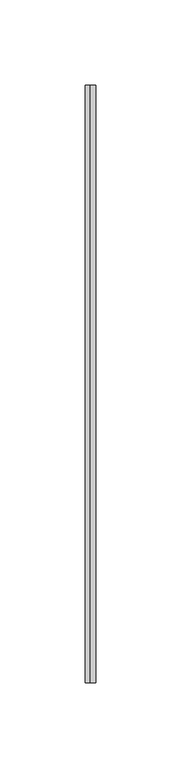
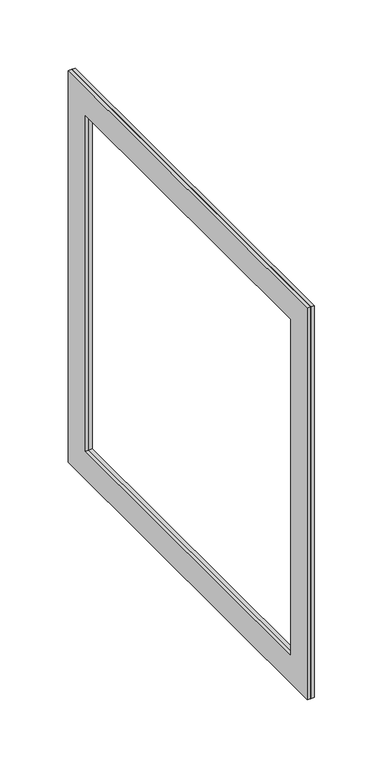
"""IFC4 building model written with IfcOpenShell, lengths in millimetres: duct fitting geometry, BL_ФланецВоздуховдов-Двойной_Прямоугольный : BL_ФланецВоздуховдов-Двойной_Прямоугольный."""

import ifcopenshell
import ifcopenshell.guid

model = None  # the IFC model being written
_history = None  # IfcOwnerHistory: only IFC2X3 demands one
_inside = {}  # id of a spatial element -> (the spatial element, [elements in it])
_under = {}  # id of a project, library or spatial element -> (it, [spatial elements below it])
_declared = {}  # id of a project -> (the project, [libraries it declares])
_typed = {}  # id of a type object -> (the type object, [elements of that type])
_made_of = {}  # id of a material, layer set ... -> (it, [elements and type objects made of it])


def new_model(schema):
    """Start an empty IFC model of exactly this schema.

    Asked for "IFC4X3", IfcOpenShell would pick the latest addendum, in which some entities
    have other attributes; the version numbers below select the first issue.
    IFC2X3 requires an IfcOwnerHistory on every rooted entity: one is made here for all.
    """
    global model, _history
    if schema == "IFC4X3":
        model = ifcopenshell.file(schema_version=(4, 3, 0, 0))
    else:
        model = ifcopenshell.file(schema=schema)
    _inside.clear()
    _under.clear()
    _declared.clear()
    _typed.clear()
    _made_of.clear()
    _history = None
    if model.schema == "IFC2X3":
        org = make("IfcOrganization", Name="unknown")
        user = make(
            "IfcPersonAndOrganization",
            ThePerson=make("IfcPerson", FamilyName="unknown"),
            TheOrganization=org,
        )
        app = make(
            "IfcApplication",
            ApplicationDeveloper=org,
            Version="unknown",
            ApplicationFullName="unknown",
            ApplicationIdentifier="unknown",
        )
        _history = make(
            "IfcOwnerHistory",
            OwningUser=user,
            OwningApplication=app,
            ChangeAction="ADDED",
            CreationDate=0,
        )
    return model


def make(cls, **values):
    """One entity of the class cls with the attributes given. An attribute that is None is left unset."""
    return model.create_entity(
        cls, **{name: value for name, value in values.items() if value is not None}
    )


def rooted(cls, **values):
    """An entity with a GlobalId (a new one), such as an element, a storey or a relation."""
    return make(cls, GlobalId=ifcopenshell.guid.new(), OwnerHistory=_history, **values)


def si_unit(unit_type, name, prefix=None):
    """IfcSIUnit, for example si_unit("LENGTHUNIT", "METRE", prefix="MILLI")."""
    return make("IfcSIUnit", UnitType=unit_type, Prefix=prefix, Name=name)


def assignment(units):
    """IfcUnitAssignment: the units of a project."""
    return None if units is None else make("IfcUnitAssignment", Units=units)


def point(xyz):
    """IfcCartesianPoint."""
    return None if xyz is None else make("IfcCartesianPoint", Coordinates=xyz)


def direction(xyz):
    """IfcDirection."""
    return None if xyz is None else make("IfcDirection", DirectionRatios=xyz)


def frame(location, z_axis=None, x_axis=None):
    """IfcAxis2Placement3D, a coordinate frame: its origin and axes. An axis left out is left unset."""
    return make(
        "IfcAxis2Placement3D",
        Location=point(location),
        Axis=direction(z_axis),
        RefDirection=direction(x_axis),
    )


def origin():
    """The frame at (0, 0, 0) with its axes left unset."""
    return frame((0.0, 0.0, 0.0))


def place(relative_to, where):
    """IfcLocalPlacement: puts the frame where relative to a parent placement (None: the world)."""
    return make(
        "IfcLocalPlacement", PlacementRelTo=relative_to, RelativePlacement=where
    )


def context(
    kind, dimensions, precision=None, world=None, true_north=None, identifier=None
):
    """IfcGeometricRepresentationContext, for example the 3D "Model" context."""
    return make(
        "IfcGeometricRepresentationContext",
        ContextIdentifier=identifier,
        ContextType=kind,
        CoordinateSpaceDimension=dimensions,
        Precision=precision,
        WorldCoordinateSystem=world,
        TrueNorth=true_north,
    )


def project(units=None, contexts=None):
    """IfcProject with its units and contexts."""
    return rooted(
        "IfcProject",
        Name="project",
        RepresentationContexts=contexts,
        UnitsInContext=assignment(units),
    )


def spatial(cls, under=None, at=None, **own):
    """A site, building, storey or space (cls), placed at a placement, below another one or the project."""
    s = rooted(cls, ObjectPlacement=at, **own)
    if under is not None:
        _under.setdefault(under.id(), (under, []))[1].append(s)
    return s


def polyline(points):
    """IfcPolyline through the points."""
    return make("IfcPolyline", Points=[point(p) for p in points])


def outline(outer, holes=None, kind="AREA"):
    """IfcArbitraryClosedProfileDef: a profile drawn as a closed curve; with holes, ...WithVoids."""
    if holes is None:
        return make("IfcArbitraryClosedProfileDef", ProfileType=kind, OuterCurve=outer)
    return make(
        "IfcArbitraryProfileDefWithVoids",
        ProfileType=kind,
        OuterCurve=outer,
        InnerCurves=holes,
    )


def extrude(swept, where, along, depth):
    """IfcExtrudedAreaSolid: the profile swept, set in the frame where, extruded along a direction by depth."""
    return make(
        "IfcExtrudedAreaSolid",
        SweptArea=swept,
        Position=where,
        ExtrudedDirection=direction(along),
        Depth=depth,
    )


def shape(context_of_items, identifier, shape_type, items):
    """IfcShapeRepresentation: the items that make up one representation, for example the "Body"."""
    return make(
        "IfcShapeRepresentation",
        ContextOfItems=context_of_items,
        RepresentationIdentifier=identifier,
        RepresentationType=shape_type,
        Items=items,
    )


def source(mapping_origin, context_of_items, identifier, shape_type, items):
    """IfcRepresentationMap: a shape defined once, which mapped items show again and again."""
    return make(
        "IfcRepresentationMap",
        MappingOrigin=mapping_origin,
        MappedRepresentation=shape(context_of_items, identifier, shape_type, items),
    )


def transform(
    local_origin,
    x_axis=None,
    y_axis=None,
    z_axis=None,
    scale=None,
    scale2=None,
    scale3=None,
    uniform=True,
):
    """IfcCartesianTransformationOperator3D, or its non-uniform kind. x_axis, y_axis, z_axis: its Axis1, 2, 3."""
    if uniform:
        return make(
            "IfcCartesianTransformationOperator3D",
            Axis1=direction(x_axis),
            Axis2=direction(y_axis),
            LocalOrigin=point(local_origin),
            Scale=scale,
            Axis3=direction(z_axis),
        )
    return make(
        "IfcCartesianTransformationOperator3DnonUniform",
        Axis1=direction(x_axis),
        Axis2=direction(y_axis),
        LocalOrigin=point(local_origin),
        Scale=scale,
        Axis3=direction(z_axis),
        Scale2=scale2,
        Scale3=scale3,
    )


def mapped(mapping_source, mapping_target):
    """IfcMappedItem: shows the shape of a source again, moved by a transform."""
    return make(
        "IfcMappedItem", MappingSource=mapping_source, MappingTarget=mapping_target
    )


def made_of(thing, what):
    """Note that an element or type object is made of a material, layer set ...; save() writes the relation."""
    if what is not None:
        _made_of.setdefault(what.id(), (what, []))[1].append(thing)
    return thing


def element(
    cls,
    number,
    at=None,
    inside=None,
    cuts=None,
    type_object=None,
    material=None,
    context=None,
    identifier="Body",
    shape_type=None,
    held_by="IfcProductDefinitionShape",
    body=None,
    shapes=None,
    **own,
):
    """One element of the class cls, such as IfcWall. Its Tag is "e" and its number.

    at: its placement. inside: the storey or other place that contains it. cuts: it is an
    opening in that element (IfcRelVoidsElement). A single representation is given by context,
    identifier, shape_type and body (its items); several are given by shapes. held_by: the class
    of the entity that holds the representations. save() writes the other relations.
    """
    e = rooted(cls, Tag="e%d" % number, ObjectPlacement=at, **own)
    if body is not None:
        shapes = [shape(context, identifier, shape_type, body)]
    if shapes is not None:
        e.Representation = make(held_by, Representations=shapes)
    if inside is not None:
        _inside.setdefault(inside.id(), (inside, []))[1].append(e)
    if cuts is not None:
        rooted(
            "IfcRelVoidsElement", RelatingBuildingElement=cuts, RelatedOpeningElement=e
        )
    if type_object is not None:
        _typed.setdefault(type_object.id(), (type_object, []))[1].append(e)
    return made_of(e, material)


def aggregate(whole, parts):
    """IfcRelAggregates: a whole, such as a stair, and the parts it consists of."""
    return rooted("IfcRelAggregates", RelatingObject=whole, RelatedObjects=parts)


def save(model, path):
    """Write the relations noted so far, then the file.

    IfcRelAggregates (storeys below a building ...), IfcRelContainedInSpatialStructure (elements
    in a storey), IfcRelDefinesByType, IfcRelAssociatesMaterial and IfcRelDeclares: one each for
    every whole, place, type object, material and project.
    """
    for whole, parts in _under.values():
        aggregate(whole, parts)
    for where, things in _inside.values():
        rooted(
            "IfcRelContainedInSpatialStructure",
            RelatedElements=things,
            RelatingStructure=where,
        )
    for kind, things in _typed.values():
        rooted("IfcRelDefinesByType", RelatedObjects=things, RelatingType=kind)
    for what, things in _made_of.values():
        rooted("IfcRelAssociatesMaterial", RelatedObjects=things, RelatingMaterial=what)
    for by, libraries in _declared.values():
        rooted("IfcRelDeclares", RelatingContext=by, RelatedDefinitions=libraries)
    model.write(path)


def duct_fitting_25271141(model_context):
    return source(origin(), model_context, "Body", "SweptSolid", [
        extrude(outline(polyline([(-220.6742229, 175.0), (129.3257771, 175.0), (129.3257771, -175.0), (-220.6742229, -175.0), (-220.6742229, 175.0)]), holes=[polyline([(-195.6742229, 150.0), (-195.6742229, -150.0), (104.3257771, -150.0), (104.3257771, 150.0), (-195.6742229, 150.0)])]), frame((0.0, 0.0, 0.0), z_axis=(1.0, 0.0, 0.0), x_axis=(0.0, 1.0, 0.0)), (0.0, 0.0, 1.0), 3.0),
        extrude(outline(polyline([(-220.6742229, 175.0), (129.3257771, 175.0), (129.3257771, -175.0), (-220.6742229, -175.0), (-220.6742229, 175.0)]), holes=[polyline([(104.3257771, 150.0), (-195.6742229, 150.0), (-195.6742229, -150.0), (104.3257771, -150.0), (104.3257771, 150.0)])]), frame((-3.0, 0.0, 0.0), z_axis=(1.0, 0.0, 0.0), x_axis=(0.0, 1.0, 0.0)), (0.0, 0.0, 1.0), 3.0),
    ])


if __name__ == "__main__":
    model = new_model("IFC4")
    model_context = context("Model", 3, world=origin())
    ifc_project = project(units=[si_unit("LENGTHUNIT", "METRE", prefix="MILLI")], contexts=[model_context])
    site = spatial("IfcSite", under=ifc_project)
    building = spatial("IfcBuilding", under=site)
    placement = place(None, origin())
    duct_fitting_shape = duct_fitting_25271141(model_context)
    element("IfcDuctFitting", 1, ObjectType="BL_ФланецВоздуховдов-Двойной_Прямоугольный : BL_ФланецВоздуховдов-Двойной_Прямоугольный", at=placement, inside=building, context=model_context, shape_type="MappedRepresentation", body=[
        mapped(duct_fitting_shape, transform((0.0, 0.0, 0.0), x_axis=(1.0, 0.0, 0.0), y_axis=(0.0, 1.0, 0.0), z_axis=(0.0, 0.0, 1.0))),
    ])
    save(model, "model.ifc")
